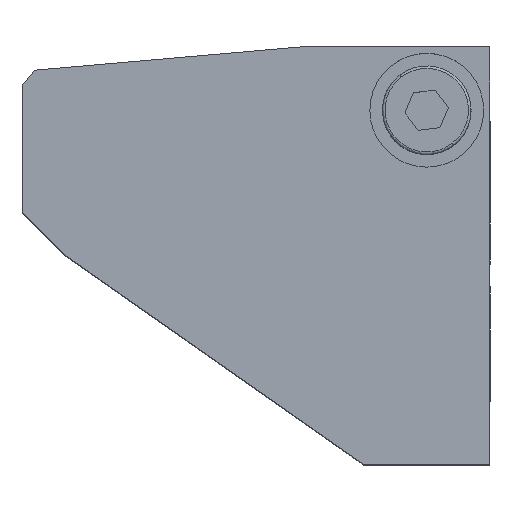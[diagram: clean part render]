
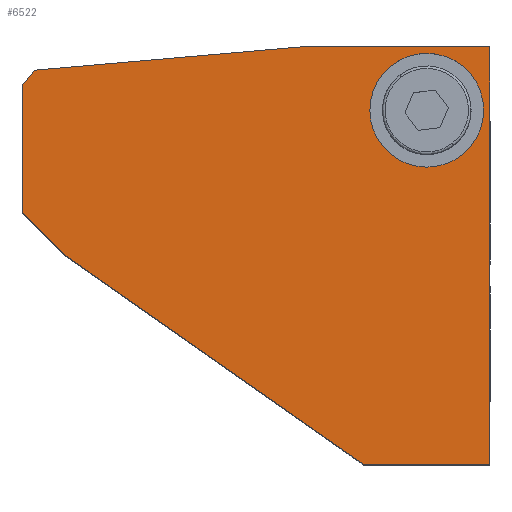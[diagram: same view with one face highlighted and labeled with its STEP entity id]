
A CAD part, top view. The second image highlights one B-rep face of the part: STEP entity #6522.
In plain terms, the highlighted planar face has unit normal (0, 0, 1).
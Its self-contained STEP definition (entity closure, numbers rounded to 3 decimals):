
#181 = CARTESIAN_POINT ( 'NONE',  ( -49.343, 33.641, 15. ) ) ;
#219 = VERTEX_POINT ( 'NONE', #3357 ) ;
#305 = DIRECTION ( 'NONE',  ( 0., 0., 1. ) ) ;
#310 = DIRECTION ( 'NONE',  ( -0.643, -0.766, 0. ) ) ;
#424 = VECTOR ( 'NONE', #7673, 1000. ) ;
#786 = EDGE_CURVE ( 'NONE', #8721, #5978, #4057, .T. ) ;
#909 = VERTEX_POINT ( 'NONE', #1098 ) ;
#939 = ORIENTED_EDGE ( 'NONE', *, *, #3452, .F. ) ;
#1098 = CARTESIAN_POINT ( 'NONE',  ( -48.347, 44.898, 15. ) ) ;
#1128 = VERTEX_POINT ( 'NONE', #7644 ) ;
#1429 = VERTEX_POINT ( 'NONE', #5093 ) ;
#1448 = LINE ( 'NONE', #9548, #424 ) ;
#2111 = CARTESIAN_POINT ( 'NONE',  ( -46.007, 30.306, 15. ) ) ;
#2162 = VECTOR ( 'NONE', #5589, 1000. ) ;
#2430 = ORIENTED_EDGE ( 'NONE', *, *, #2664, .T. ) ;
#2446 = VECTOR ( 'NONE', #310, 1000. ) ;
#2641 = EDGE_CURVE ( 'NONE', #909, #11358, #6019, .T. ) ;
#2664 = EDGE_CURVE ( 'NONE', #1128, #4228, #10557, .T. ) ;
#2730 = DIRECTION ( 'NONE',  ( -0.996, -0.087, 0. ) ) ;
#2736 = DIRECTION ( 'NONE',  ( 0., -1., 0. ) ) ;
#2919 = EDGE_CURVE ( 'NONE', #11358, #6486, #1448, .T. ) ;
#3060 = CIRCLE ( 'NONE', #8706, 1. ) ;
#3173 = CARTESIAN_POINT ( 'NONE',  ( -17.343, 37.236, 15. ) ) ;
#3216 = CARTESIAN_POINT ( 'NONE',  ( -17.343, 41.736, 15. ) ) ;
#3260 = VERTEX_POINT ( 'NONE', #3667 ) ;
#3271 = DIRECTION ( 'NONE',  ( 0., 0., 1. ) ) ;
#3357 = CARTESIAN_POINT ( 'NONE',  ( -46.007, 30.306, 15. ) ) ;
#3452 = EDGE_CURVE ( 'NONE', #5978, #8721, #5380, .T. ) ;
#3611 = EDGE_CURVE ( 'NONE', #4228, #10927, #5973, .T. ) ;
#3667 = CARTESIAN_POINT ( 'NONE',  ( -22.343, 13.736, 15. ) ) ;
#4057 = CIRCLE ( 'NONE', #4300, 4.5 ) ;
#4169 = EDGE_LOOP ( 'NONE', ( #939, #8965 ) ) ;
#4228 = VERTEX_POINT ( 'NONE', #5741 ) ;
#4300 = AXIS2_PLACEMENT_3D ( 'NONE', #10276, #6089, #10375 ) ;
#5001 = DIRECTION ( 'NONE',  ( 0.819, -0.574, 0. ) ) ;
#5093 = CARTESIAN_POINT ( 'NONE',  ( -27.386, 46.732, 15. ) ) ;
#5207 = EDGE_LOOP ( 'NONE', ( #9545, #2430, #9955, #10065, #11771, #8422, #10689, #10752, #11089 ) ) ;
#5208 = DIRECTION ( 'NONE',  ( 0., 0., 1. ) ) ;
#5380 = CIRCLE ( 'NONE', #7654, 4.5 ) ;
#5589 = DIRECTION ( 'NONE',  ( 0., 1., 0. ) ) ;
#5741 = CARTESIAN_POINT ( 'NONE',  ( -12.343, 46.736, 15. ) ) ;
#5946 = EDGE_CURVE ( 'NONE', #219, #3260, #7767, .T. ) ;
#5959 = CARTESIAN_POINT ( 'NONE',  ( -49.343, 13.736, 15. ) ) ;
#5973 = LINE ( 'NONE', #9472, #8675 ) ;
#5978 = VERTEX_POINT ( 'NONE', #3173 ) ;
#6019 = LINE ( 'NONE', #10511, #2446 ) ;
#6081 = CARTESIAN_POINT ( 'NONE',  ( -49.343, 43.711, 15. ) ) ;
#6089 = DIRECTION ( 'NONE',  ( 0., 0., 1. ) ) ;
#6302 = LINE ( 'NONE', #10890, #10832 ) ;
#6486 = VERTEX_POINT ( 'NONE', #181 ) ;
#6522 = ADVANCED_FACE ( 'NONE', ( #7924, #8149 ), #10469, .T. ) ;
#6523 = LINE ( 'NONE', #9276, #11065 ) ;
#6608 = EDGE_CURVE ( 'NONE', #6486, #219, #6523, .T. ) ;
#6912 = DIRECTION ( 'NONE',  ( 1., 0., 0. ) ) ;
#7000 = CARTESIAN_POINT ( 'NONE',  ( -17.343, 46.236, 15. ) ) ;
#7085 = AXIS2_PLACEMENT_3D ( 'NONE', #5959, #305, #6912 ) ;
#7511 = VECTOR ( 'NONE', #5001, 1000. ) ;
#7644 = CARTESIAN_POINT ( 'NONE',  ( -12.343, 13.736, 15. ) ) ;
#7654 = AXIS2_PLACEMENT_3D ( 'NONE', #3216, #5208, #2736 ) ;
#7673 = DIRECTION ( 'NONE',  ( 0., -1., 0. ) ) ;
#7767 = LINE ( 'NONE', #2111, #7511 ) ;
#7918 = VECTOR ( 'NONE', #2730, 1000. ) ;
#7924 = FACE_BOUND ( 'NONE', #4169, .T. ) ;
#8149 = FACE_OUTER_BOUND ( 'NONE', #5207, .T. ) ;
#8422 = ORIENTED_EDGE ( 'NONE', *, *, #2641, .T. ) ;
#8642 = DIRECTION ( 'NONE',  ( -1., 0., 0. ) ) ;
#8675 = VECTOR ( 'NONE', #8642, 1000. ) ;
#8706 = AXIS2_PLACEMENT_3D ( 'NONE', #8878, #3271, #9796 ) ;
#8721 = VERTEX_POINT ( 'NONE', #7000 ) ;
#8746 = EDGE_CURVE ( 'NONE', #10927, #1429, #3060, .T. ) ;
#8878 = CARTESIAN_POINT ( 'NONE',  ( -27.299, 45.736, 15. ) ) ;
#8965 = ORIENTED_EDGE ( 'NONE', *, *, #786, .F. ) ;
#9276 = CARTESIAN_POINT ( 'NONE',  ( -49.343, 33.641, 15. ) ) ;
#9286 = CARTESIAN_POINT ( 'NONE',  ( -27.386, 46.732, 15. ) ) ;
#9472 = CARTESIAN_POINT ( 'NONE',  ( -30.843, 46.736, 15. ) ) ;
#9545 = ORIENTED_EDGE ( 'NONE', *, *, #9577, .T. ) ;
#9548 = CARTESIAN_POINT ( 'NONE',  ( -49.343, 30.236, 15. ) ) ;
#9577 = EDGE_CURVE ( 'NONE', #3260, #1128, #6302, .T. ) ;
#9796 = DIRECTION ( 'NONE',  ( 0., 1., 0. ) ) ;
#9955 = ORIENTED_EDGE ( 'NONE', *, *, #3611, .T. ) ;
#10065 = ORIENTED_EDGE ( 'NONE', *, *, #8746, .T. ) ;
#10195 = DIRECTION ( 'NONE',  ( 0.707, -0.707, 0. ) ) ;
#10276 = CARTESIAN_POINT ( 'NONE',  ( -17.343, 41.736, 15. ) ) ;
#10338 = LINE ( 'NONE', #9286, #7918 ) ;
#10375 = DIRECTION ( 'NONE',  ( 0., -1., 0. ) ) ;
#10469 = PLANE ( 'NONE',  #7085 ) ;
#10511 = CARTESIAN_POINT ( 'NONE',  ( -48.845, 44.305, 15. ) ) ;
#10557 = LINE ( 'NONE', #11002, #2162 ) ;
#10689 = ORIENTED_EDGE ( 'NONE', *, *, #2919, .T. ) ;
#10752 = ORIENTED_EDGE ( 'NONE', *, *, #6608, .T. ) ;
#10832 = VECTOR ( 'NONE', #11813, 1000. ) ;
#10890 = CARTESIAN_POINT ( 'NONE',  ( -30.843, 13.736, 15. ) ) ;
#10927 = VERTEX_POINT ( 'NONE', #11646 ) ;
#11002 = CARTESIAN_POINT ( 'NONE',  ( -12.343, 30.236, 15. ) ) ;
#11049 = EDGE_CURVE ( 'NONE', #1429, #909, #10338, .T. ) ;
#11065 = VECTOR ( 'NONE', #10195, 1000. ) ;
#11089 = ORIENTED_EDGE ( 'NONE', *, *, #5946, .T. ) ;
#11358 = VERTEX_POINT ( 'NONE', #6081 ) ;
#11646 = CARTESIAN_POINT ( 'NONE',  ( -27.299, 46.736, 15. ) ) ;
#11771 = ORIENTED_EDGE ( 'NONE', *, *, #11049, .T. ) ;
#11813 = DIRECTION ( 'NONE',  ( 1., 0., 0. ) ) ;
